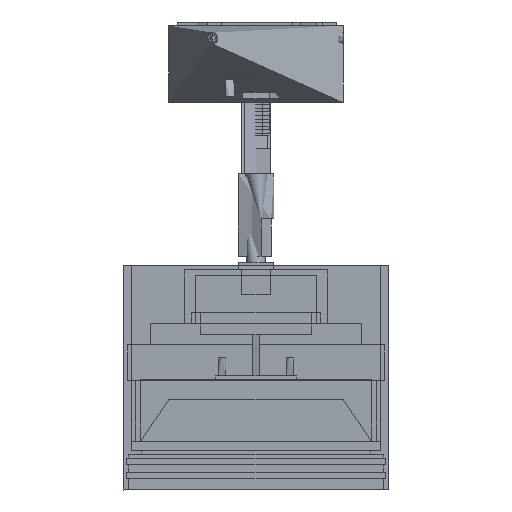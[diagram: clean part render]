
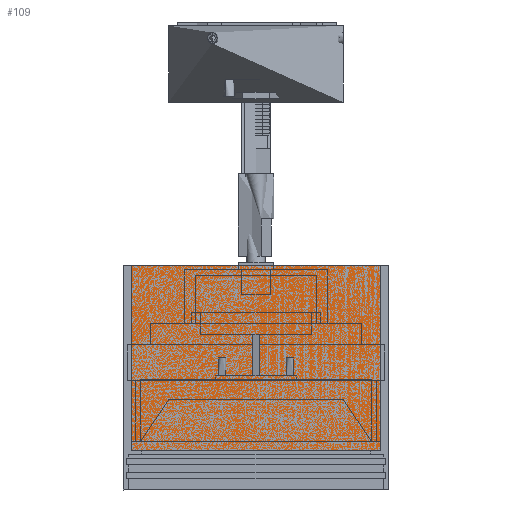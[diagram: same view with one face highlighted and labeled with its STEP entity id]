
A CAD part, front view. The second image highlights one B-rep face of the part: STEP entity #109.
In plain terms, the highlighted free-form (B-spline) face has degree [2, 1] with [5, 2] control points.
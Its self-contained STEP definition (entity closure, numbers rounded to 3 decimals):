
#109=ADVANCED_FACE('',(#392),#7596,.T.);
#392=FACE_OUTER_BOUND('',#661,.T.);
#661=EDGE_LOOP('',(#1089,#1090,#1091,#1092));
#1089=ORIENTED_EDGE('',*,*,#6328,.T.);
#1090=ORIENTED_EDGE('',*,*,#6329,.T.);
#1091=ORIENTED_EDGE('',*,*,#6330,.T.);
#1092=ORIENTED_EDGE('',*,*,#6326,.F.);
#2222=PCURVE('',#7595,#3358);
#2225=PCURVE('',#7596,#3361);
#2226=PCURVE('',#7596,#3362);
#2227=PCURVE('',#7596,#3363);
#2228=PCURVE('',#7596,#3364);
#2232=PCURVE('',#7597,#3368);
#2290=PCURVE('',#7612,#3426);
#2292=PCURVE('',#7612,#3428);
#3358=DEFINITIONAL_REPRESENTATION('',(#4526),#16390);
#3361=DEFINITIONAL_REPRESENTATION('',(#4531),#16390);
#3362=DEFINITIONAL_REPRESENTATION('',(#4532),#16390);
#3363=DEFINITIONAL_REPRESENTATION('',(#4534),#16390);
#3364=DEFINITIONAL_REPRESENTATION('',(#4535),#16390);
#3368=DEFINITIONAL_REPRESENTATION('',(#4541),#16390);
#3426=DEFINITIONAL_REPRESENTATION('',(#4621),#16390);
#3428=DEFINITIONAL_REPRESENTATION('',(#4623),#16390);
#4526=B_SPLINE_CURVE_WITH_KNOTS('',1,(#9678,#9679),.UNSPECIFIED.,.F.,.F.,
(2,2),(-69.201,0.),.UNSPECIFIED.);
#4530=B_SPLINE_CURVE_WITH_KNOTS('',1,(#9686,#9687),.UNSPECIFIED.,.F.,.F.,
(2,2),(4.,56.),.UNSPECIFIED.);
#4531=B_SPLINE_CURVE_WITH_KNOTS('',1,(#9688,#9689),.UNSPECIFIED.,.F.,.F.,
(2,2),(4.,56.),.UNSPECIFIED.);
#4532=B_SPLINE_CURVE_WITH_KNOTS('',1,(#9695,#9696),.UNSPECIFIED.,.F.,.F.,
(2,2),(-69.201,0.),.UNSPECIFIED.);
#4533=B_SPLINE_CURVE_WITH_KNOTS('',1,(#9697,#9698),.UNSPECIFIED.,.F.,.F.,
(2,2),(-56.,-4.),.UNSPECIFIED.);
#4534=B_SPLINE_CURVE_WITH_KNOTS('',1,(#9699,#9700),.UNSPECIFIED.,.F.,.F.,
(2,2),(-56.,-4.),.UNSPECIFIED.);
#4535=B_SPLINE_CURVE_WITH_KNOTS('',1,(#9701,#9702),.UNSPECIFIED.,.F.,.F.,
(2,2),(-69.201,0.),.UNSPECIFIED.);
#4541=B_SPLINE_CURVE_WITH_KNOTS('',1,(#9718,#9719),.UNSPECIFIED.,.F.,.F.,
(2,2),(-69.201,0.),.UNSPECIFIED.);
#4621=B_SPLINE_CURVE_WITH_KNOTS('',1,(#9948,#9949),.UNSPECIFIED.,.F.,.F.,
(2,2),(-56.,-4.),.UNSPECIFIED.);
#4623=B_SPLINE_CURVE_WITH_KNOTS('',1,(#9957,#9958),.UNSPECIFIED.,.F.,.F.,
(2,2),(4.,56.),.UNSPECIFIED.);
#5750=SURFACE_CURVE('',#6870,(#2222,#2228),.PCURVE_S1.);
#5752=SURFACE_CURVE('',#4530,(#2225,#2292),.PCURVE_S1.);
#5753=SURFACE_CURVE('',#6871,(#2226,#2232),.PCURVE_S1.);
#5754=SURFACE_CURVE('',#4533,(#2227,#2290),.PCURVE_S1.);
#6326=EDGE_CURVE('',#7245,#7240,#5750,.T.);
#6328=EDGE_CURVE('',#7245,#7246,#5752,.T.);
#6329=EDGE_CURVE('',#7246,#7239,#5753,.T.);
#6330=EDGE_CURVE('',#7239,#7240,#5754,.T.);
#6870=(
BOUNDED_CURVE()
B_SPLINE_CURVE(2,(#9673,#9674,#9675,#9676,#9677),.UNSPECIFIED.,.F.,.F.)
B_SPLINE_CURVE_WITH_KNOTS((3,2,3),(-69.201,-34.601,
0.),.UNSPECIFIED.)
CURVE()
GEOMETRIC_REPRESENTATION_ITEM()
RATIONAL_B_SPLINE_CURVE((1.,0.707,1.,0.707,1.))
REPRESENTATION_ITEM('')
);
#6871=(
BOUNDED_CURVE()
B_SPLINE_CURVE(2,(#9690,#9691,#9692,#9693,#9694),.UNSPECIFIED.,.F.,.F.)
B_SPLINE_CURVE_WITH_KNOTS((3,2,3),(-69.201,-34.601,
0.),.UNSPECIFIED.)
CURVE()
GEOMETRIC_REPRESENTATION_ITEM()
RATIONAL_B_SPLINE_CURVE((1.,0.707,1.,0.707,1.))
REPRESENTATION_ITEM('')
);
#7239=VERTEX_POINT('',#9611);
#7240=VERTEX_POINT('',#9612);
#7245=VERTEX_POINT('',#9617);
#7246=VERTEX_POINT('',#9618);
#7595=(
BOUNDED_SURFACE()
B_SPLINE_SURFACE(2,1,((#9298,#9299),(#9300,#9301),(#9302,#9303),(#9304,
#9305),(#9306,#9307)),.UNSPECIFIED.,.F.,.F.,.F.)
B_SPLINE_SURFACE_WITH_KNOTS((3,2,3),(2,2),(0.,34.601,69.201),
(1.,4.),.UNSPECIFIED.)
GEOMETRIC_REPRESENTATION_ITEM()
RATIONAL_B_SPLINE_SURFACE(((1.,1.),(0.707,0.707),
(1.,1.),(0.707,0.707),(1.,1.)))
REPRESENTATION_ITEM('')
SURFACE()
);
#7596=(
BOUNDED_SURFACE()
B_SPLINE_SURFACE(2,1,((#9308,#9309),(#9310,#9311),(#9312,#9313),(#9314,
#9315),(#9316,#9317)),.UNSPECIFIED.,.F.,.F.,.F.)
B_SPLINE_SURFACE_WITH_KNOTS((3,2,3),(2,2),(0.,34.601,69.201),
(4.,56.),.UNSPECIFIED.)
GEOMETRIC_REPRESENTATION_ITEM()
RATIONAL_B_SPLINE_SURFACE(((1.,1.),(0.707,0.707),
(1.,1.),(0.707,0.707),(1.,1.)))
REPRESENTATION_ITEM('')
SURFACE()
);
#7597=(
BOUNDED_SURFACE()
B_SPLINE_SURFACE(2,1,((#9318,#9319),(#9320,#9321),(#9322,#9323),(#9324,
#9325),(#9326,#9327)),.UNSPECIFIED.,.F.,.F.,.F.)
B_SPLINE_SURFACE_WITH_KNOTS((3,2,3),(2,2),(0.,34.601,69.201),
(56.,58.201),.UNSPECIFIED.)
GEOMETRIC_REPRESENTATION_ITEM()
RATIONAL_B_SPLINE_SURFACE(((1.,1.),(0.707,0.707),
(1.,1.),(0.707,0.707),(1.,1.)))
REPRESENTATION_ITEM('')
SURFACE()
);
#7612=(
BOUNDED_SURFACE()
B_SPLINE_SURFACE(2,1,((#9468,#9469),(#9470,#9471),(#9472,#9473),(#9474,
#9475),(#9476,#9477)),.UNSPECIFIED.,.F.,.F.,.F.)
B_SPLINE_SURFACE_WITH_KNOTS((3,2,3),(2,2),(69.201,103.802,
138.403),(4.,56.),.UNSPECIFIED.)
GEOMETRIC_REPRESENTATION_ITEM()
RATIONAL_B_SPLINE_SURFACE(((1.,1.),(0.707,0.707),
(1.,1.),(0.707,0.707),(1.,1.)))
REPRESENTATION_ITEM('')
SURFACE()
);
#9298=CARTESIAN_POINT('',(32.,0.,11.));
#9299=CARTESIAN_POINT('',(35.,0.,11.));
#9300=CARTESIAN_POINT('',(32.,-32.,11.));
#9301=CARTESIAN_POINT('',(35.,-35.,11.));
#9302=CARTESIAN_POINT('',(0.,-32.,11.));
#9303=CARTESIAN_POINT('',(0.,-35.,11.));
#9304=CARTESIAN_POINT('',(-32.,-32.,11.));
#9305=CARTESIAN_POINT('',(-35.,-35.,11.));
#9306=CARTESIAN_POINT('',(-32.,0.,11.));
#9307=CARTESIAN_POINT('',(-35.,0.,11.));
#9308=CARTESIAN_POINT('',(35.,0.,11.));
#9309=CARTESIAN_POINT('',(35.,0.,63.));
#9310=CARTESIAN_POINT('',(35.,-35.,11.));
#9311=CARTESIAN_POINT('',(35.,-35.,63.));
#9312=CARTESIAN_POINT('',(0.,-35.,11.));
#9313=CARTESIAN_POINT('',(0.,-35.,63.));
#9314=CARTESIAN_POINT('',(-35.,-35.,11.));
#9315=CARTESIAN_POINT('',(-35.,-35.,63.));
#9316=CARTESIAN_POINT('',(-35.,0.,11.));
#9317=CARTESIAN_POINT('',(-35.,0.,63.));
#9318=CARTESIAN_POINT('',(35.,0.,63.));
#9319=CARTESIAN_POINT('',(37.201,0.,63.));
#9320=CARTESIAN_POINT('',(35.,-35.,63.));
#9321=CARTESIAN_POINT('',(37.201,-37.201,63.));
#9322=CARTESIAN_POINT('',(0.,-35.,63.));
#9323=CARTESIAN_POINT('',(0.,-37.201,63.));
#9324=CARTESIAN_POINT('',(-35.,-35.,63.));
#9325=CARTESIAN_POINT('',(-37.201,-37.201,63.));
#9326=CARTESIAN_POINT('',(-35.,0.,63.));
#9327=CARTESIAN_POINT('',(-37.201,0.,63.));
#9468=CARTESIAN_POINT('',(-35.,0.,11.));
#9469=CARTESIAN_POINT('',(-35.,0.,63.));
#9470=CARTESIAN_POINT('',(-35.,35.,11.));
#9471=CARTESIAN_POINT('',(-35.,35.,63.));
#9472=CARTESIAN_POINT('',(0.,35.,11.));
#9473=CARTESIAN_POINT('',(0.,35.,63.));
#9474=CARTESIAN_POINT('',(35.,35.,11.));
#9475=CARTESIAN_POINT('',(35.,35.,63.));
#9476=CARTESIAN_POINT('',(35.,0.,11.));
#9477=CARTESIAN_POINT('',(35.,0.,63.));
#9611=CARTESIAN_POINT('',(35.,0.,63.));
#9612=CARTESIAN_POINT('',(35.,0.,11.));
#9617=CARTESIAN_POINT('',(-35.,0.,11.));
#9618=CARTESIAN_POINT('',(-35.,0.,63.));
#9673=CARTESIAN_POINT('',(-35.,0.,11.));
#9674=CARTESIAN_POINT('',(-35.,-35.,11.));
#9675=CARTESIAN_POINT('',(0.,-35.,11.));
#9676=CARTESIAN_POINT('',(35.,-35.,11.));
#9677=CARTESIAN_POINT('',(35.,0.,11.));
#9678=CARTESIAN_POINT('',(69.201,4.));
#9679=CARTESIAN_POINT('',(0.,4.));
#9686=CARTESIAN_POINT('',(-35.,0.,11.));
#9687=CARTESIAN_POINT('',(-35.,0.,63.));
#9688=CARTESIAN_POINT('',(69.201,4.));
#9689=CARTESIAN_POINT('',(69.201,56.));
#9690=CARTESIAN_POINT('',(-35.,0.,63.));
#9691=CARTESIAN_POINT('',(-35.,-35.,63.));
#9692=CARTESIAN_POINT('',(0.,-35.,63.));
#9693=CARTESIAN_POINT('',(35.,-35.,63.));
#9694=CARTESIAN_POINT('',(35.,0.,63.));
#9695=CARTESIAN_POINT('',(69.201,56.));
#9696=CARTESIAN_POINT('',(0.,56.));
#9697=CARTESIAN_POINT('',(35.,0.,63.));
#9698=CARTESIAN_POINT('',(35.,0.,11.));
#9699=CARTESIAN_POINT('',(0.,56.));
#9700=CARTESIAN_POINT('',(0.,4.));
#9701=CARTESIAN_POINT('',(69.201,4.));
#9702=CARTESIAN_POINT('',(0.,4.));
#9718=CARTESIAN_POINT('',(69.201,56.));
#9719=CARTESIAN_POINT('',(0.,56.));
#9948=CARTESIAN_POINT('',(138.403,56.));
#9949=CARTESIAN_POINT('',(138.403,4.));
#9957=CARTESIAN_POINT('',(69.201,4.));
#9958=CARTESIAN_POINT('',(69.201,56.));
#16390=(
GEOMETRIC_REPRESENTATION_CONTEXT(2)
PARAMETRIC_REPRESENTATION_CONTEXT()
REPRESENTATION_CONTEXT('pspace','')
);
